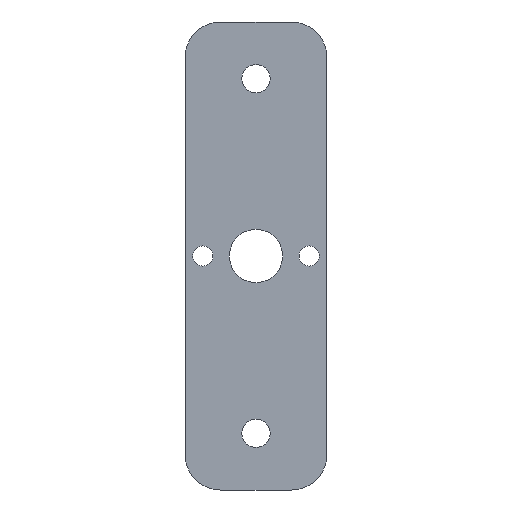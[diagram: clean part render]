
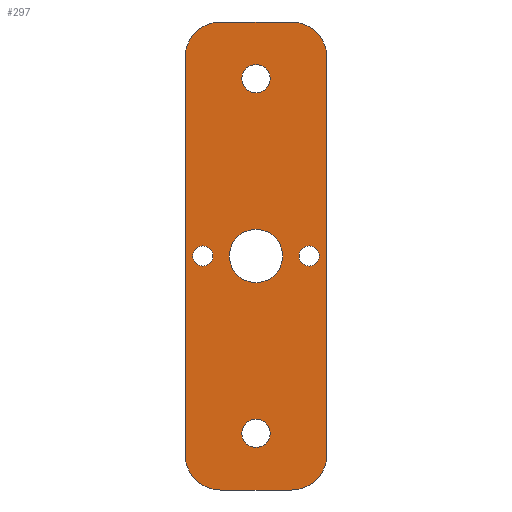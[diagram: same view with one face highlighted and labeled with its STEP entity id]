
A CAD part, front view. The second image highlights one B-rep face of the part: STEP entity #297.
In plain terms, the highlighted planar face has unit normal (0, -1, 0).
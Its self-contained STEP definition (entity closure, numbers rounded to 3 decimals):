
#20=FACE_BOUND('',#66,.T.);
#21=FACE_BOUND('',#67,.T.);
#22=FACE_BOUND('',#68,.T.);
#23=FACE_BOUND('',#69,.T.);
#24=FACE_BOUND('',#70,.T.);
#30=PLANE('',#344);
#45=FACE_OUTER_BOUND('',#65,.T.);
#65=EDGE_LOOP('',(#261,#262,#263,#264,#265,#266,#267,#268));
#66=EDGE_LOOP('',(#269));
#67=EDGE_LOOP('',(#270));
#68=EDGE_LOOP('',(#271));
#69=EDGE_LOOP('',(#272));
#70=EDGE_LOOP('',(#273));
#76=LINE('',#468,#97);
#81=LINE('',#482,#102);
#85=LINE('',#494,#106);
#89=LINE('',#506,#110);
#97=VECTOR('',#384,10.);
#102=VECTOR('',#397,10.);
#106=VECTOR('',#409,10.);
#110=VECTOR('',#421,10.);
#113=CIRCLE('',#313,0.85);
#115=CIRCLE('',#316,0.85);
#118=CIRCLE('',#320,1.2);
#120=CIRCLE('',#323,2.25);
#122=CIRCLE('',#326,1.2);
#123=CIRCLE('',#329,3.);
#125=CIRCLE('',#333,3.);
#127=CIRCLE('',#337,3.);
#129=CIRCLE('',#341,3.);
#131=VERTEX_POINT('',#436);
#133=VERTEX_POINT('',#442);
#136=VERTEX_POINT('',#450);
#138=VERTEX_POINT('',#456);
#140=VERTEX_POINT('',#462);
#141=VERTEX_POINT('',#466);
#142=VERTEX_POINT('',#467);
#145=VERTEX_POINT('',#475);
#147=VERTEX_POINT('',#481);
#149=VERTEX_POINT('',#487);
#151=VERTEX_POINT('',#493);
#153=VERTEX_POINT('',#499);
#155=VERTEX_POINT('',#505);
#157=EDGE_CURVE('',#131,#131,#113,.T.);
#160=EDGE_CURVE('',#133,#133,#115,.T.);
#165=EDGE_CURVE('',#136,#136,#118,.T.);
#168=EDGE_CURVE('',#138,#138,#120,.T.);
#171=EDGE_CURVE('',#140,#140,#122,.T.);
#172=EDGE_CURVE('',#141,#142,#76,.T.);
#176=EDGE_CURVE('',#145,#142,#123,.T.);
#179=EDGE_CURVE('',#145,#147,#81,.T.);
#182=EDGE_CURVE('',#149,#147,#125,.T.);
#185=EDGE_CURVE('',#149,#151,#85,.T.);
#188=EDGE_CURVE('',#153,#151,#127,.T.);
#191=EDGE_CURVE('',#153,#155,#89,.T.);
#194=EDGE_CURVE('',#141,#155,#129,.T.);
#261=ORIENTED_EDGE('',*,*,#194,.F.);
#262=ORIENTED_EDGE('',*,*,#172,.T.);
#263=ORIENTED_EDGE('',*,*,#176,.F.);
#264=ORIENTED_EDGE('',*,*,#179,.T.);
#265=ORIENTED_EDGE('',*,*,#182,.F.);
#266=ORIENTED_EDGE('',*,*,#185,.T.);
#267=ORIENTED_EDGE('',*,*,#188,.F.);
#268=ORIENTED_EDGE('',*,*,#191,.T.);
#269=ORIENTED_EDGE('',*,*,#157,.T.);
#270=ORIENTED_EDGE('',*,*,#160,.T.);
#271=ORIENTED_EDGE('',*,*,#171,.F.);
#272=ORIENTED_EDGE('',*,*,#168,.F.);
#273=ORIENTED_EDGE('',*,*,#165,.F.);
#297=ADVANCED_FACE('',(#45,#20,#21,#22,#23,#24),#30,.F.);
#313=AXIS2_PLACEMENT_3D('',#437,#349,#350);
#316=AXIS2_PLACEMENT_3D('',#443,#356,#357);
#320=AXIS2_PLACEMENT_3D('',#452,#366,#367);
#323=AXIS2_PLACEMENT_3D('',#458,#373,#374);
#326=AXIS2_PLACEMENT_3D('',#464,#380,#381);
#329=AXIS2_PLACEMENT_3D('',#476,#390,#391);
#333=AXIS2_PLACEMENT_3D('',#488,#402,#403);
#337=AXIS2_PLACEMENT_3D('',#500,#414,#415);
#341=AXIS2_PLACEMENT_3D('',#511,#426,#427);
#344=AXIS2_PLACEMENT_3D('',#514,#432,#433);
#349=DIRECTION('center_axis',(0.,1.,0.));
#350=DIRECTION('ref_axis',(0.,0.,-1.));
#356=DIRECTION('center_axis',(0.,1.,0.));
#357=DIRECTION('ref_axis',(0.,0.,-1.));
#366=DIRECTION('center_axis',(0.,-1.,0.));
#367=DIRECTION('ref_axis',(-1.,0.,0.));
#373=DIRECTION('center_axis',(0.,-1.,0.));
#374=DIRECTION('ref_axis',(-1.,0.,0.));
#380=DIRECTION('center_axis',(0.,-1.,0.));
#381=DIRECTION('ref_axis',(-1.,0.,0.));
#384=DIRECTION('',(1.,0.,0.));
#390=DIRECTION('center_axis',(0.,1.,0.));
#391=DIRECTION('ref_axis',(1.,0.,0.));
#397=DIRECTION('',(0.,0.,1.));
#402=DIRECTION('center_axis',(0.,1.,0.));
#403=DIRECTION('ref_axis',(0.,0.,1.));
#409=DIRECTION('',(-1.,0.,0.));
#414=DIRECTION('center_axis',(0.,1.,0.));
#415=DIRECTION('ref_axis',(-1.,0.,0.));
#421=DIRECTION('',(0.,0.,-1.));
#426=DIRECTION('center_axis',(0.,1.,0.));
#427=DIRECTION('ref_axis',(0.,0.,-1.));
#432=DIRECTION('center_axis',(0.,1.,0.));
#433=DIRECTION('ref_axis',(-1.,0.,0.));
#436=CARTESIAN_POINT('',(23.993,36.5,-35.822));
#437=CARTESIAN_POINT('Origin',(23.993,36.5,-36.672));
#442=CARTESIAN_POINT('',(14.993,36.5,-35.822));
#443=CARTESIAN_POINT('Origin',(14.993,36.5,-36.672));
#450=CARTESIAN_POINT('',(20.693,36.5,-21.672));
#452=CARTESIAN_POINT('Origin',(19.493,36.5,-21.672));
#456=CARTESIAN_POINT('',(21.743,36.5,-36.672));
#458=CARTESIAN_POINT('Origin',(19.493,36.5,-36.672));
#462=CARTESIAN_POINT('',(20.693,36.5,-51.672));
#464=CARTESIAN_POINT('Origin',(19.493,36.5,-51.672));
#466=CARTESIAN_POINT('',(16.493,36.5,-56.469));
#467=CARTESIAN_POINT('',(22.493,36.5,-56.469));
#468=CARTESIAN_POINT('',(16.493,36.5,-56.469));
#475=CARTESIAN_POINT('',(25.493,36.5,-53.469));
#476=CARTESIAN_POINT('Origin',(22.493,36.5,-53.469));
#481=CARTESIAN_POINT('',(25.493,36.5,-19.875));
#482=CARTESIAN_POINT('',(25.493,36.5,-53.469));
#487=CARTESIAN_POINT('',(22.493,36.5,-16.875));
#488=CARTESIAN_POINT('Origin',(22.493,36.5,-19.875));
#493=CARTESIAN_POINT('',(16.493,36.5,-16.875));
#494=CARTESIAN_POINT('',(22.493,36.5,-16.875));
#499=CARTESIAN_POINT('',(13.493,36.5,-19.875));
#500=CARTESIAN_POINT('Origin',(16.493,36.5,-19.875));
#505=CARTESIAN_POINT('',(13.493,36.5,-53.469));
#506=CARTESIAN_POINT('',(13.493,36.5,-19.875));
#511=CARTESIAN_POINT('Origin',(16.493,36.5,-53.469));
#514=CARTESIAN_POINT('Origin',(19.493,36.5,-36.672));
